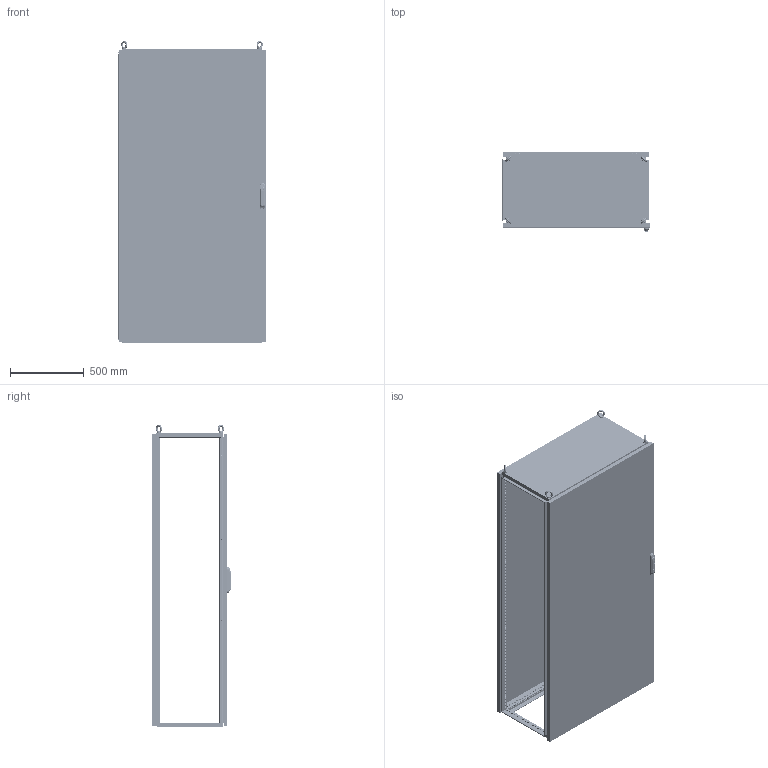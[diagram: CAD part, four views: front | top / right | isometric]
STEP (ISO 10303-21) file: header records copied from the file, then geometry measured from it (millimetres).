
FILE_DESCRIPTION(/* description */ ('Unknown'),/* implementation_level */ '2;1');
FILE_NAME(/* name */ 'MCA10020050',/* time_stamp */ '2025-03-07T09:52:16+01:00',/* author */ ('Unknown'),/* organization */ ('Unknown'),/* preprocessor_version */ 'ST-DEVELOPER v19.4',/* originating_system */ 'Solid Edge',/* authorisation */ 'Unknown');
FILE_SCHEMA (('CONFIG_CONTROL_DESIGN'));
Products named in the file (46): MCA10020050; F0000001.24; AE00198.03; M000X000.42; M0000000.14; AE00500.10; M000X000.43; M0000000.53; M0000000.44; M0000000.06; AE00219.03; AE00715.01; M000X000.57; M0000000.61; F000X000.26; F000X000.27; F0000000.27; F0000000.07; AE00100.03_oa_0; AE00100.03_oa_1; AE00100.03_oa_2; AE00100.03_oa_3; M0000000.37; AE00701.03; F0000000.13; F000X000.28; F000X000.29; F000X000.30; F0000000.28; F000X000.31; F0000002.22; F0000002.18; AE01400.01; AE00413.05; AE00417.01; F0000000.12; AE00222.15; AE00316.01; AE00992.10_oa_4; AE00992.31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
Assembly tree (190 placements, depth 5):
  MCA10020050
    F0000001.24  x4
    AE00198.03  x16
    M000X000.42
      M0000000.14  x4
      AE00500.10  x48
      M000X000.43  x2
        M0000000.53
        M0000000.44
        M0000000.06
    AE00219.03  x8
    AE00715.01  x4
    M000X000.57
      M0000000.61
    F000X000.26
      F000X000.27
        F0000000.27
      F0000000.07  x2
      AE00100.03_oa_0
      AE00100.03_oa_1
      AE00100.03_oa_2
      AE00100.03_oa_3
    M0000000.37  x8
    AE00701.03  x4
    F0000000.13  x4
    F000X000.28
      F000X000.29
        F000X000.30
          F0000000.28
        F000X000.31
          F0000002.22  x2
          F0000002.18  x2
          AE01400.01  x4
        AE00413.05  x4
        AE00417.01  x2
      F0000000.12  x8
      AE00222.15  x8
      AE00316.01  x8
      AE00992.10_oa_4
      AE00992.31
      AE00315.01  x4
      AE00992.17   x2
      AE00992.18  x4
      AE00992.16
      AE00636.02  x8
    F0000000.08  x4
Bounding box: 1000.5 x 538.7 x 2056.98 mm (x, y, z)
Volume: 18880997 mm3; surface area: 16528616.2 mm2
Topology: 199 solids, 199 shells, 10612 faces, 30492 edges, 20427 vertices
Faces by surface type: plane 7617, cylinder 2389, cone 534, torus 42, sphere 16, bspline 14
Full cylindrical faces by diameter (mm): 2 x4, 3 x1, 3.242 x2, 4 x12, 4.134 x5, 4.25 x214, 4.5 x1024, 4.917 x65, 4.918 x8, 5 x6, 6 x58, 6.1 x20, 6.2 x8, 6.5 x20, 7.5 x2, 8.3 x8, 8.5 x2, 9 x48, 10.106 x8, 10.5 x16, 11.8 x8, 12 x16, 13 x4, 14 x1, 16 x1, 17 x1, 23 x2, 30 x4
Entity records: 83406 total; most frequent: CARTESIAN_POINT 14569, ORIENTED_EDGE 12932, DIRECTION 12866, EDGE_CURVE 6466, LINE 5088, VECTOR 5088, VERTEX_POINT 4596, FACE_BOUND 4280
